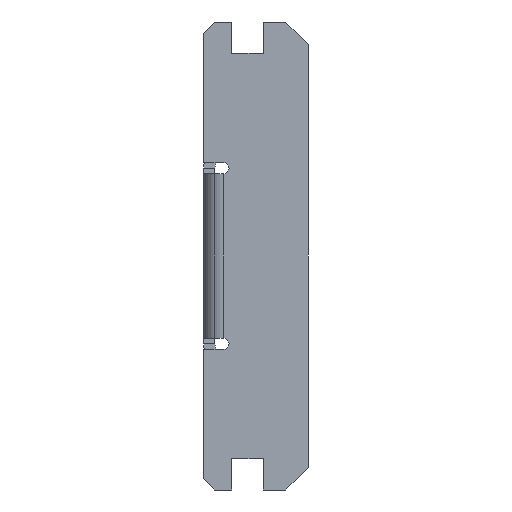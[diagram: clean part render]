
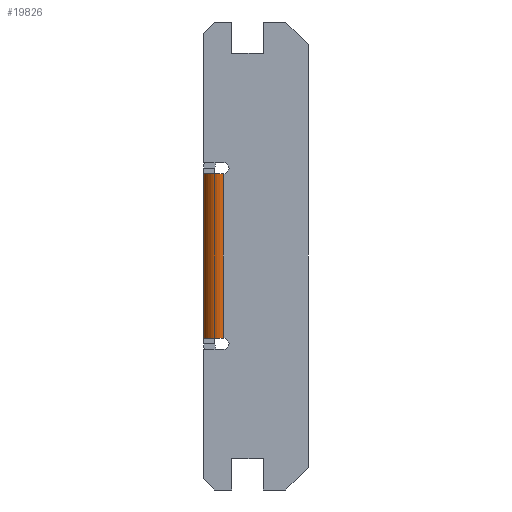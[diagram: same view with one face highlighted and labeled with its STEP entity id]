
A CAD part, front view. The second image highlights one B-rep face of the part: STEP entity #19826.
In plain terms, the highlighted cylindrical face has radius 3.5 mm (diameter 7 mm), a partial arc.
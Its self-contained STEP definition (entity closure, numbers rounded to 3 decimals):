
#583 = EDGE_LOOP ( 'NONE', ( #5598, #5601, #5602, #5600 ) ) ;
#656 = VERTEX_POINT ( 'NONE', #8741 ) ;
#3575 = EDGE_CURVE ( 'NONE', #7749, #7750, #13492, .T. ) ;
#3797 = EDGE_CURVE ( 'NONE', #656, #7928, #14158, .T. ) ;
#3823 = EDGE_CURVE ( 'NONE', #7750, #656, #12357, .T. ) ;
#3825 = EDGE_CURVE ( 'NONE', #7928, #7749, #12359, .T. ) ;
#5598 = ORIENTED_EDGE ( 'NONE', *, *, #3575, .F. ) ;
#5600 = ORIENTED_EDGE ( 'NONE', *, *, #3823, .F. ) ;
#5601 = ORIENTED_EDGE ( 'NONE', *, *, #3825, .F. ) ;
#5602 = ORIENTED_EDGE ( 'NONE', *, *, #3797, .F. ) ;
#7749 = VERTEX_POINT ( 'NONE', #18547 ) ;
#7750 = VERTEX_POINT ( 'NONE', #18548 ) ;
#7928 = VERTEX_POINT ( 'NONE', #18726 ) ;
#8741 = CARTESIAN_POINT ( 'NONE',  ( 3.5, -443., 14.5 ) ) ;
#11245 = VECTOR ( 'NONE', #13494, 1000. ) ;
#11467 = VECTOR ( 'NONE', #14160, 1000. ) ;
#11472 = AXIS2_PLACEMENT_3D ( 'NONE', #14241, #14242, #14243 ) ;
#11493 = AXIS2_PLACEMENT_3D ( 'NONE', #14229, #14236, #14237 ) ;
#12357 = CIRCLE ( 'NONE', #11493, 3.5 ) ;
#12359 = CIRCLE ( 'NONE', #11472, 3.5 ) ;
#13492 = LINE ( 'NONE', #13493, #11245 ) ;
#13493 = CARTESIAN_POINT ( 'NONE',  ( 0., -439.5, -14.5 ) ) ;
#13494 = DIRECTION ( 'NONE',  ( 0., 0., 1. ) ) ;
#14158 = LINE ( 'NONE', #14159, #11467 ) ;
#14159 = CARTESIAN_POINT ( 'NONE',  ( 3.5, -443., -14.5 ) ) ;
#14160 = DIRECTION ( 'NONE',  ( 0., 0., -1. ) ) ;
#14229 = CARTESIAN_POINT ( 'NONE',  ( 3.5, -439.5, 14.5 ) ) ;
#14236 = DIRECTION ( 'NONE',  ( 0., 0., 1. ) ) ;
#14237 = DIRECTION ( 'NONE',  ( -1., 0., 0. ) ) ;
#14241 = CARTESIAN_POINT ( 'NONE',  ( 3.5, -439.5, -14.5 ) ) ;
#14242 = DIRECTION ( 'NONE',  ( 0., 0., -1. ) ) ;
#14243 = DIRECTION ( 'NONE',  ( -1., 0., 0. ) ) ;
#17379 = FACE_OUTER_BOUND ( 'NONE', #583, .T. ) ;
#17383 = CYLINDRICAL_SURFACE ( 'NONE', #17384, 3.5 ) ;
#17384 = AXIS2_PLACEMENT_3D ( 'NONE', #19410, #19411, #19412 ) ;
#18547 = CARTESIAN_POINT ( 'NONE',  ( 0., -439.5, -14.5 ) ) ;
#18548 = CARTESIAN_POINT ( 'NONE',  ( 0., -439.5, 14.5 ) ) ;
#18726 = CARTESIAN_POINT ( 'NONE',  ( 3.5, -443., -14.5 ) ) ;
#19410 = CARTESIAN_POINT ( 'NONE',  ( 3.5, -439.5, -14.5 ) ) ;
#19411 = DIRECTION ( 'NONE',  ( 0., 0., -1. ) ) ;
#19412 = DIRECTION ( 'NONE',  ( 0., -1., 0. ) ) ;
#19826 = ADVANCED_FACE ( 'NONE', ( #17379 ), #17383, .T. ) ;
